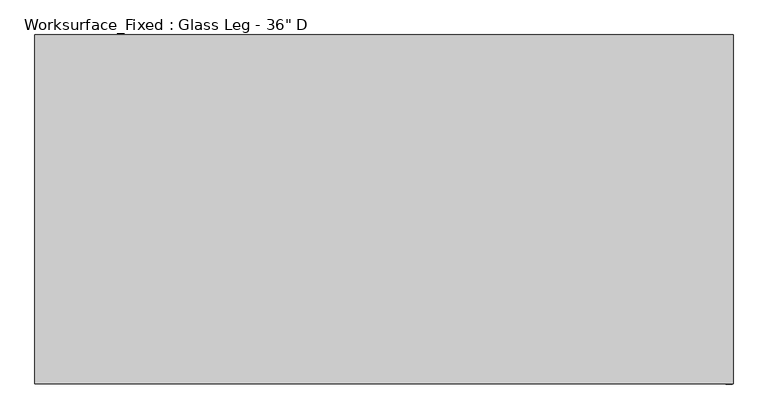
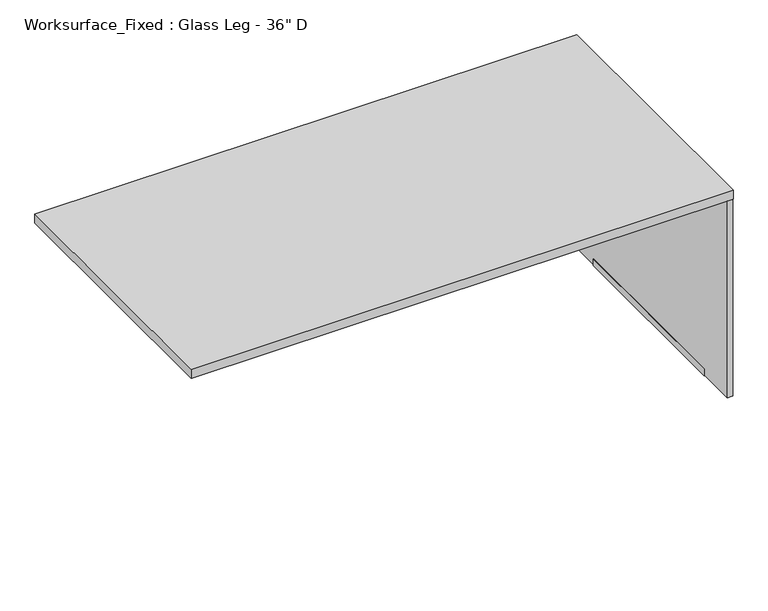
"""IFC4 building model written with IfcOpenShell, lengths in millimetres: furniture geometry."""

from ifc_helpers import new_model, si_unit, frame, origin, place, context, project, spatial, polyline, outline, extrude, source, transform, mapped, element, save


def furniture_fd948a2c(model_context):
    return source(origin(), model_context, "Body", "SweptSolid", [
        extrude(outline(polyline([(654.85, 1804.6851165), (654.85, 1808.1625), (704.85, 1808.1625), (704.85, 198.5886722), (677.2318516, 198.5886722), (677.2318516, 468.4636722), (670.8818516, 468.4636722), (664.8286016, 474.5169222), (664.8286016, 1794.7065149), (654.85, 1804.6851165)])), frame((0.0, 133.35, 0.0), z_axis=(0.0, 1.0, 0.0), x_axis=(0.0, 0.0, 1.0)), (0.0, 0.0, 1.0), 647.7),
        extrude(outline(polyline([(0.0, 1828.8), (23.8125, 1828.8), (23.8125, 1827.2125), (1.5875, 1827.2125), (1.5875, 1809.75), (23.8125, 1809.75), (23.8125, 1808.1625), (0.0, 1808.1625), (0.0, 1828.8)])), frame((0.0, 133.35, 0.0), z_axis=(0.0, 1.0, 0.0), x_axis=(0.0, 0.0, 1.0)), (0.0, 0.0, 1.0), 647.7),
        extrude(outline(polyline([(704.85, 1828.8), (704.85, 1808.1625), (654.85, 1808.1625), (654.85, 1809.75), (703.2625, 1809.75), (703.2625, 1827.2125), (654.85, 1827.2125), (654.85, 1828.8), (704.85, 1828.8)])), frame((0.0, 133.35, 0.0), z_axis=(0.0, 1.0, 0.0), x_axis=(0.0, 0.0, 1.0)), (0.0, 0.0, 1.0), 647.7),
        extrude(outline(polyline([(1827.2125, 914.4), (1827.2125, 0.0), (1809.75, 0.0), (1809.75, 914.4), (1827.2125, 914.4)])), frame((0.0, 0.0, 1.5875), z_axis=(0.0, 0.0, 1.0), x_axis=(1.0, 0.0, 0.0)), (0.0, 0.0, 1.0), 701.675),
        extrude(outline(polyline([(1828.8, 914.4), (1828.8, 0.0), (0.0, 0.0), (0.0, 914.4), (1828.8, 914.4)])), frame((0.0, 0.0, 704.85), z_axis=(0.0, 0.0, 1.0), x_axis=(1.0, 0.0, 0.0)), (0.0, 0.0, 1.0), 31.75),
    ])


if __name__ == "__main__":
    model = new_model("IFC4")
    model_context = context("Model", 3, world=origin())
    ifc_project = project(units=[si_unit("LENGTHUNIT", "METRE", prefix="MILLI")], contexts=[model_context])
    site = spatial("IfcSite", under=ifc_project)
    building = spatial("IfcBuilding", under=site)
    placement = place(None, origin())
    furniture_shape = furniture_fd948a2c(model_context)
    element("IfcFurniture", 1, ObjectType="Worksurface_Fixed : Glass Leg - 36\" D", at=placement, inside=building, context=model_context, shape_type="MappedRepresentation", body=[
        mapped(furniture_shape, transform((0.0, 0.0, 0.0), x_axis=(1.0, 0.0, 0.0), y_axis=(0.0, 1.0, 0.0), z_axis=(0.0, 0.0, 1.0))),
    ])
    save(model, "model.ifc")
